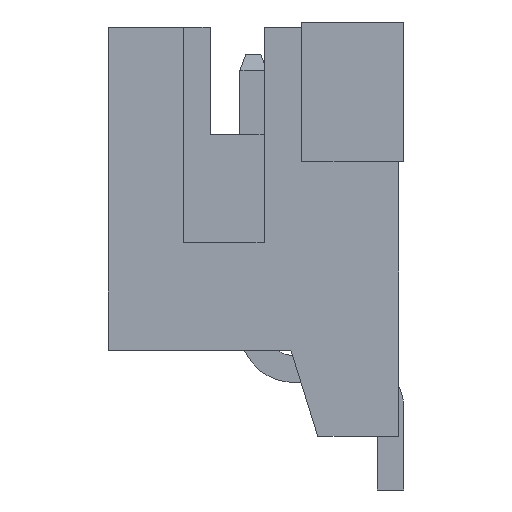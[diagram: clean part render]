
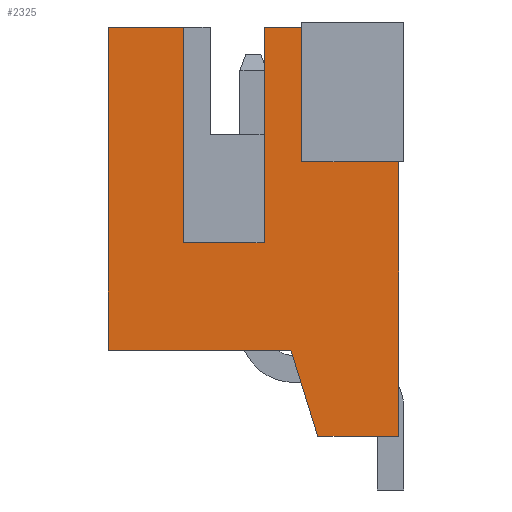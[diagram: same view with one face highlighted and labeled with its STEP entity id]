
A CAD part, left-side view. The second image highlights one B-rep face of the part: STEP entity #2325.
In plain terms, the highlighted planar face has unit normal (-1, 0, 0).
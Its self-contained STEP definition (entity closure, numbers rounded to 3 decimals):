
#8 = DIRECTION ( 'NONE',  ( 0., 1., 0. ) ) ;
#9 = VECTOR ( 'NONE', #8, 1000. ) ;
#10 = CARTESIAN_POINT ( 'NONE',  ( -10., 0.1, -7.6 ) ) ;
#11 = LINE ( 'NONE', #10, #9 ) ;
#13 = CARTESIAN_POINT ( 'NONE',  ( -10., 0.1, -7.6 ) ) ;
#23 = CARTESIAN_POINT ( 'NONE',  ( -10., 1.6, -7.6 ) ) ;
#56 = CARTESIAN_POINT ( 'NONE',  ( -10., 1.9, 0. ) ) ;
#57 = DIRECTION ( 'NONE',  ( 0., -1., 0. ) ) ;
#58 = VECTOR ( 'NONE', #57, 1000. ) ;
#59 = CARTESIAN_POINT ( 'NONE',  ( -10., 0.1, 0. ) ) ;
#60 = LINE ( 'NONE', #59, #58 ) ;
#61 = CARTESIAN_POINT ( 'NONE',  ( -10., 0.1, -2.5 ) ) ;
#157 = CARTESIAN_POINT ( 'NONE',  ( -10., 2.6, 0. ) ) ;
#158 = DIRECTION ( 'NONE',  ( 0., 0., 1. ) ) ;
#159 = VECTOR ( 'NONE', #158, 1000. ) ;
#160 = CARTESIAN_POINT ( 'NONE',  ( -10., 2.6, 0. ) ) ;
#161 = LINE ( 'NONE', #160, #159 ) ;
#162 = CARTESIAN_POINT ( 'NONE',  ( -10., 2.6, -4. ) ) ;
#167 = DIRECTION ( 'NONE',  ( 0., 0., -1. ) ) ;
#168 = VECTOR ( 'NONE', #167, 1000. ) ;
#169 = CARTESIAN_POINT ( 'NONE',  ( -10., 0.1, 0. ) ) ;
#170 = LINE ( 'NONE', #169, #168 ) ;
#1671 = EDGE_CURVE ( 'NONE', #1745, #1672, #7014, .T. ) ;
#1672 = VERTEX_POINT ( 'NONE', #7010 ) ;
#1745 = VERTEX_POINT ( 'NONE', #7258 ) ;
#1880 = EDGE_CURVE ( 'NONE', #1924, #1899, #170, .T. ) ;
#1883 = VERTEX_POINT ( 'NONE', #162 ) ;
#1885 = EDGE_CURVE ( 'NONE', #1883, #1886, #161, .T. ) ;
#1886 = VERTEX_POINT ( 'NONE', #157 ) ;
#1893 = VERTEX_POINT ( 'NONE', #23 ) ;
#1899 = VERTEX_POINT ( 'NONE', #13 ) ;
#1901 = EDGE_CURVE ( 'NONE', #1899, #1893, #11, .T. ) ;
#1924 = VERTEX_POINT ( 'NONE', #61 ) ;
#1925 = EDGE_CURVE ( 'NONE', #1886, #1926, #60, .T. ) ;
#1926 = VERTEX_POINT ( 'NONE', #56 ) ;
#1975 = EDGE_CURVE ( 'NONE', #1893, #1745, #7680, .T. ) ;
#2033 = VERTEX_POINT ( 'NONE', #7495 ) ;
#2034 = EDGE_CURVE ( 'NONE', #2043, #2194, #7494, .T. ) ;
#2035 = ORIENTED_EDGE ( 'NONE', *, *, #2321, .F. ) ;
#2036 = ORIENTED_EDGE ( 'NONE', *, *, #2245, .F. ) ;
#2037 = ORIENTED_EDGE ( 'NONE', *, *, #2034, .T. ) ;
#2038 = EDGE_LOOP ( 'NONE', ( #2170, #2039, #2040, #2041, #2037, #2035, #2036, #2052, #2053, #2054, #2055, #2056 ) ) ;
#2039 = ORIENTED_EDGE ( 'NONE', *, *, #1925, .F. ) ;
#2040 = ORIENTED_EDGE ( 'NONE', *, *, #1885, .F. ) ;
#2041 = ORIENTED_EDGE ( 'NONE', *, *, #2042, .F. ) ;
#2042 = EDGE_CURVE ( 'NONE', #2043, #1883, #7490, .T. ) ;
#2043 = VERTEX_POINT ( 'NONE', #7486 ) ;
#2052 = ORIENTED_EDGE ( 'NONE', *, *, #1671, .F. ) ;
#2053 = ORIENTED_EDGE ( 'NONE', *, *, #1975, .F. ) ;
#2054 = ORIENTED_EDGE ( 'NONE', *, *, #1901, .F. ) ;
#2055 = ORIENTED_EDGE ( 'NONE', *, *, #1880, .F. ) ;
#2056 = ORIENTED_EDGE ( 'NONE', *, *, #2057, .F. ) ;
#2057 = EDGE_CURVE ( 'NONE', #2033, #1924, #7560, .T. ) ;
#2075 = EDGE_CURVE ( 'NONE', #2033, #1926, #7473, .T. ) ;
#2170 = ORIENTED_EDGE ( 'NONE', *, *, #2075, .T. ) ;
#2194 = VERTEX_POINT ( 'NONE', #7789 ) ;
#2245 = EDGE_CURVE ( 'NONE', #1672, #2246, #7775, .T. ) ;
#2246 = VERTEX_POINT ( 'NONE', #7771 ) ;
#2321 = EDGE_CURVE ( 'NONE', #2246, #2194, #8026, .T. ) ;
#2325 = ADVANCED_FACE ( 'NONE', ( #8018 ), #8016, .T. ) ;
#7010 = CARTESIAN_POINT ( 'NONE',  ( -10., 5.5, -6. ) ) ;
#7011 = DIRECTION ( 'NONE',  ( 0., 1., 0. ) ) ;
#7012 = VECTOR ( 'NONE', #7011, 1000. ) ;
#7013 = CARTESIAN_POINT ( 'NONE',  ( -10., 2.1, -6. ) ) ;
#7014 = LINE ( 'NONE', #7013, #7012 ) ;
#7258 = CARTESIAN_POINT ( 'NONE',  ( -10., 2.1, -6. ) ) ;
#7470 = DIRECTION ( 'NONE',  ( 0., 0., 1. ) ) ;
#7471 = VECTOR ( 'NONE', #7470, 1000. ) ;
#7472 = CARTESIAN_POINT ( 'NONE',  ( -10., 1.9, -2.5 ) ) ;
#7473 = LINE ( 'NONE', #7472, #7471 ) ;
#7486 = CARTESIAN_POINT ( 'NONE',  ( -10., 4.1, -4. ) ) ;
#7487 = DIRECTION ( 'NONE',  ( 0., -1., 0. ) ) ;
#7488 = VECTOR ( 'NONE', #7487, 1000. ) ;
#7489 = CARTESIAN_POINT ( 'NONE',  ( -10., 4.1, -4. ) ) ;
#7490 = LINE ( 'NONE', #7489, #7488 ) ;
#7491 = DIRECTION ( 'NONE',  ( 0., 0., 1. ) ) ;
#7492 = VECTOR ( 'NONE', #7491, 1000. ) ;
#7493 = CARTESIAN_POINT ( 'NONE',  ( -10., 4.1, -4. ) ) ;
#7494 = LINE ( 'NONE', #7493, #7492 ) ;
#7495 = CARTESIAN_POINT ( 'NONE',  ( -10., 1.9, -2.5 ) ) ;
#7557 = DIRECTION ( 'NONE',  ( 0., -1., 0. ) ) ;
#7558 = VECTOR ( 'NONE', #7557, 1000. ) ;
#7559 = CARTESIAN_POINT ( 'NONE',  ( -10., 1.9, -2.5 ) ) ;
#7560 = LINE ( 'NONE', #7559, #7558 ) ;
#7677 = DIRECTION ( 'NONE',  ( 0., 0.298, 0.954 ) ) ;
#7678 = VECTOR ( 'NONE', #7677, 1000. ) ;
#7679 = CARTESIAN_POINT ( 'NONE',  ( -10., 1.6, -7.6 ) ) ;
#7680 = LINE ( 'NONE', #7679, #7678 ) ;
#7771 = CARTESIAN_POINT ( 'NONE',  ( -10., 5.5, 0. ) ) ;
#7772 = DIRECTION ( 'NONE',  ( 0., 0., 1. ) ) ;
#7773 = VECTOR ( 'NONE', #7772, 1000. ) ;
#7774 = CARTESIAN_POINT ( 'NONE',  ( -10., 5.5, 0. ) ) ;
#7775 = LINE ( 'NONE', #7774, #7773 ) ;
#7789 = CARTESIAN_POINT ( 'NONE',  ( -10., 4.1, 0. ) ) ;
#8012 = DIRECTION ( 'NONE',  ( 0., 0., 1. ) ) ;
#8013 = DIRECTION ( 'NONE',  ( -1., 0., 0. ) ) ;
#8014 = CARTESIAN_POINT ( 'NONE',  ( -10., 2.6, 0. ) ) ;
#8015 = AXIS2_PLACEMENT_3D ( 'NONE', #8014, #8013, #8012 ) ;
#8016 = PLANE ( 'NONE',  #8015 ) ;
#8018 = FACE_OUTER_BOUND ( 'NONE', #2038, .T. ) ;
#8023 = DIRECTION ( 'NONE',  ( 0., -1., 0. ) ) ;
#8024 = VECTOR ( 'NONE', #8023, 1000. ) ;
#8025 = CARTESIAN_POINT ( 'NONE',  ( -10., 3.6, 0. ) ) ;
#8026 = LINE ( 'NONE', #8025, #8024 ) ;
